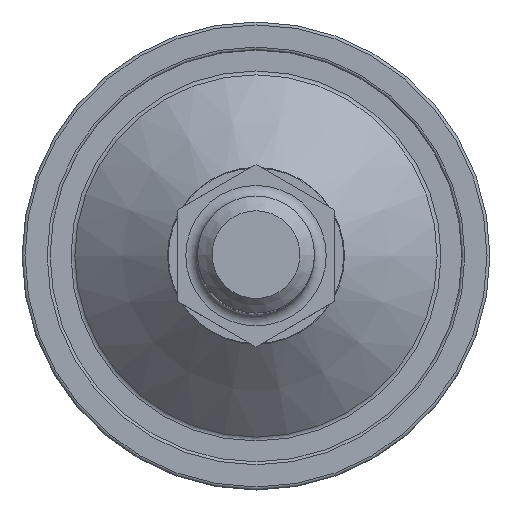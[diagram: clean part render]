
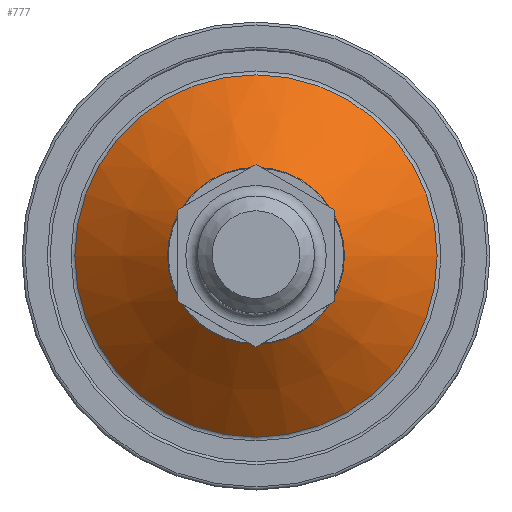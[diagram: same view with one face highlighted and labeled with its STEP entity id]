
A CAD part, top view. The second image highlights one B-rep face of the part: STEP entity #777.
In plain terms, the highlighted conical face has half-angle 49.002 degrees and reference radius 23.047 mm.
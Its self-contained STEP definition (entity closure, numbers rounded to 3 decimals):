
#86=CONICAL_SURFACE('',#863,23.047,49.002);
#104=FACE_BOUND('',#245,.T.);
#167=FACE_OUTER_BOUND('',#244,.T.);
#244=EDGE_LOOP('',(#597));
#245=EDGE_LOOP('',(#598));
#367=CIRCLE('',#849,15.124);
#375=CIRCLE('',#862,30.97);
#430=VERTEX_POINT('',#1267);
#438=VERTEX_POINT('',#1288);
#505=EDGE_CURVE('',#430,#430,#367,.T.);
#513=EDGE_CURVE('',#438,#438,#375,.T.);
#597=ORIENTED_EDGE('',*,*,#505,.T.);
#598=ORIENTED_EDGE('',*,*,#513,.F.);
#777=ADVANCED_FACE('',(#167,#104),#86,.T.);
#849=AXIS2_PLACEMENT_3D('',#1268,#987,#988);
#862=AXIS2_PLACEMENT_3D('',#1289,#1013,#1014);
#863=AXIS2_PLACEMENT_3D('',#1290,#1015,#1016);
#987=DIRECTION('center_axis',(0.,0.,-1.));
#988=DIRECTION('ref_axis',(1.,0.,0.));
#1013=DIRECTION('center_axis',(0.,0.,-1.));
#1014=DIRECTION('ref_axis',(1.,0.,0.));
#1015=DIRECTION('center_axis',(0.,0.,-1.));
#1016=DIRECTION('ref_axis',(1.,0.,0.));
#1267=CARTESIAN_POINT('',(91.933,169.802,-444.11));
#1268=CARTESIAN_POINT('Origin',(107.057,169.802,-444.11));
#1288=CARTESIAN_POINT('',(76.087,169.802,-457.884));
#1289=CARTESIAN_POINT('Origin',(107.057,169.802,-457.884));
#1290=CARTESIAN_POINT('Origin',(107.057,169.802,-450.997));
